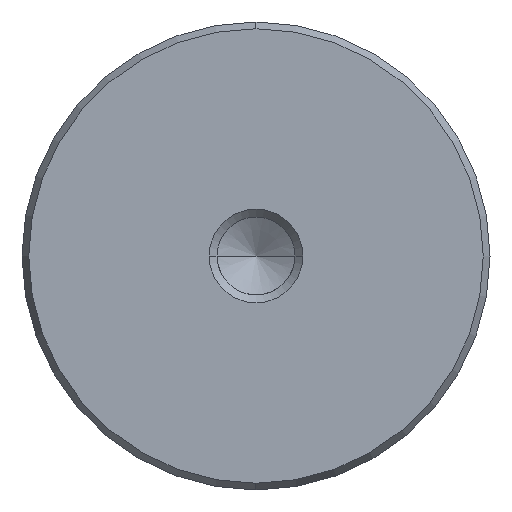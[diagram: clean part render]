
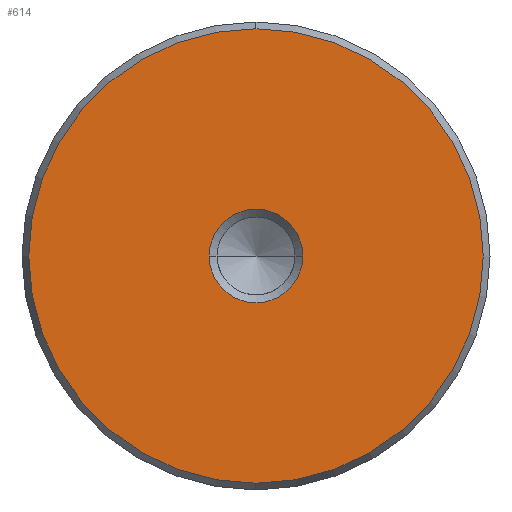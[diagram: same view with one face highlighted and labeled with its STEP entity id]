
A CAD part, left-side view. The second image highlights one B-rep face of the part: STEP entity #614.
In plain terms, the highlighted planar face has unit normal (-1, 0, 0).
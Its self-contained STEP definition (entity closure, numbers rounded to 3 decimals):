
#528=CARTESIAN_POINT('Vertex',(0.,0.,-19.423)) ;
#531=CARTESIAN_POINT('Axis2P3D Location',(0.,0.,0.)) ;
#535=CARTESIAN_POINT('Vertex',(0.,19.423,0.)) ;
#538=CARTESIAN_POINT('Axis2P3D Location',(0.,0.,0.)) ;
#542=CARTESIAN_POINT('Vertex',(0.,0.,19.423)) ;
#564=CARTESIAN_POINT('Axis2P3D Location',(0.,0.,0.)) ;
#568=CARTESIAN_POINT('Vertex',(0.,-19.423,0.)) ;
#571=CARTESIAN_POINT('Axis2P3D Location',(0.,0.,0.)) ;
#585=CARTESIAN_POINT('Axis2P3D Location',(0.,0.,0.)) ;
#596=CARTESIAN_POINT('Axis2P3D Location',(0.,0.,0.)) ;
#600=CARTESIAN_POINT('Vertex',(0.,4.,0.)) ;
#602=CARTESIAN_POINT('Vertex',(0.,-4.,0.)) ;
#605=CARTESIAN_POINT('Axis2P3D Location',(0.,0.,0.)) ;
#532=DIRECTION('Axis2P3D Direction',(1.,0.,-0.)) ;
#539=DIRECTION('Axis2P3D Direction',(1.,0.,-0.)) ;
#565=DIRECTION('Axis2P3D Direction',(1.,0.,-0.)) ;
#572=DIRECTION('Axis2P3D Direction',(1.,0.,-0.)) ;
#586=DIRECTION('Axis2P3D Direction',(1.,0.,-0.)) ;
#587=DIRECTION('Axis2P3D XDirection',(-0.,0.,-1.)) ;
#597=DIRECTION('Axis2P3D Direction',(1.,0.,-0.)) ;
#606=DIRECTION('Axis2P3D Direction',(1.,0.,-0.)) ;
#533=AXIS2_PLACEMENT_3D('Circle Axis2P3D',#531,#532,$) ;
#540=AXIS2_PLACEMENT_3D('Circle Axis2P3D',#538,#539,$) ;
#566=AXIS2_PLACEMENT_3D('Circle Axis2P3D',#564,#565,$) ;
#573=AXIS2_PLACEMENT_3D('Circle Axis2P3D',#571,#572,$) ;
#588=AXIS2_PLACEMENT_3D('Plane Axis2P3D',#585,#586,#587) ;
#598=AXIS2_PLACEMENT_3D('Circle Axis2P3D',#596,#597,$) ;
#607=AXIS2_PLACEMENT_3D('Circle Axis2P3D',#605,#606,$) ;
#591=ORIENTED_EDGE('',*,*,#537,.F.) ;
#592=ORIENTED_EDGE('',*,*,#575,.F.) ;
#593=ORIENTED_EDGE('',*,*,#570,.F.) ;
#594=ORIENTED_EDGE('',*,*,#544,.F.) ;
#611=ORIENTED_EDGE('',*,*,#604,.T.) ;
#612=ORIENTED_EDGE('',*,*,#609,.T.) ;
#613=FACE_BOUND('',#610,.T.) ;
#614=ADVANCED_FACE('720-40x280',(#595,#613),#589,.F.) ;
#534=CIRCLE('generated circle',#533,19.423) ;
#541=CIRCLE('generated circle',#540,19.423) ;
#567=CIRCLE('generated circle',#566,19.423) ;
#574=CIRCLE('generated circle',#573,19.423) ;
#599=CIRCLE('generated circle',#598,4.) ;
#608=CIRCLE('generated circle',#607,4.) ;
#537=EDGE_CURVE('',#529,#536,#534,.T.) ;
#544=EDGE_CURVE('',#536,#543,#541,.T.) ;
#570=EDGE_CURVE('',#543,#569,#567,.T.) ;
#575=EDGE_CURVE('',#569,#529,#574,.T.) ;
#604=EDGE_CURVE('',#601,#603,#599,.T.) ;
#609=EDGE_CURVE('',#603,#601,#608,.T.) ;
#590=EDGE_LOOP('',(#591,#592,#593,#594)) ;
#610=EDGE_LOOP('',(#611,#612)) ;
#595=FACE_OUTER_BOUND('',#590,.T.) ;
#589=PLANE('Plane',#588) ;
#529=VERTEX_POINT('',#528) ;
#536=VERTEX_POINT('',#535) ;
#543=VERTEX_POINT('',#542) ;
#569=VERTEX_POINT('',#568) ;
#601=VERTEX_POINT('',#600) ;
#603=VERTEX_POINT('',#602) ;
